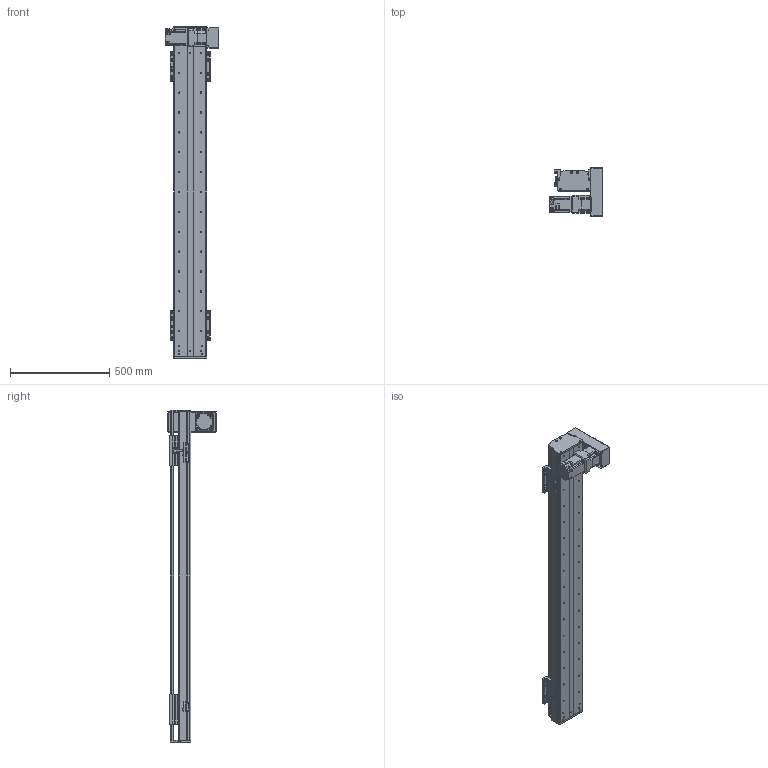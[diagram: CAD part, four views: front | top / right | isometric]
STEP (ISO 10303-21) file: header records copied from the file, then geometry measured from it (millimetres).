
FILE_DESCRIPTION(/* description */ (''),/* implementation_level */ '2;1');
FILE_NAME(/* name */ 'C:\Users\PC\Desktop\3D도면\STEP\새 폴더\DSB165-DR7G-W1300-L.stp',/* time_stamp */ '2018-06-25T15:59:21+09:00',/* author */ ('PC'),/* organization */ (''),/* preprocessor_version */ 'ST-DEVELOPER v16.5',/* originating_system */ 'Autodesk Inventor 2017',/* authorisation */ '');
FILE_SCHEMA (('AUTOMOTIVE_DESIGN { 1 0 10303 214 3 1 1 }'));
Length unit declared in the file: millimetre
Products named in the file (12): DSB165-DL7G-W1300-R_MIR; DSB165-BASE-L_MIR; hg-kr73__MIR; ab0901-p0401300102_MIR; 11-DSB165 BELT COVER_MIR; 12-DSB165-REAR COVER_MIR; 14-DSB165-FRONT COVER_MIR; DSB165-UP COVER_MIR; DSB165-TABLE(MSB20S)_MIR; DSR165-SENSOR DOG_MIR; SENSOR BRACKET(EE-SX674A)_MIR; pm-y65_step_MIR
Assembly tree (16 placements, depth 2):
  DSB165-DL7G-W1300-R_MIR
    DSB165-BASE-L_MIR
    hg-kr73__MIR
    ab0901-p0401300102_MIR
    11-DSB165 BELT COVER_MIR
    12-DSB165-REAR COVER_MIR
    14-DSB165-FRONT COVER_MIR
    DSB165-UP COVER_MIR
    DSB165-TABLE(MSB20S)_MIR  x2
    DSR165-SENSOR DOG_MIR
    pm-y65_step_MIR  x3
    SENSOR BRACKET(EE-SX674A)_MIR  x3
Bounding box: 270 x 242 x 1670 mm (x, y, z)
Volume: 10239437.9 mm3; surface area: 2378681 mm2
Topology: 17 solids, 17 shells, 1677 faces, 4504 edges, 2966 vertices
Faces by surface type: plane 921, cylinder 624, cone 120, sphere 8, torus 4
Full cylindrical faces by diameter (mm): 2.459 x20, 3.5 x6, 4.134 x42, 4.5 x18, 5 x27, 5.5 x36, 5.9 x4, 6 x4, 6.6 x14, 6.647 x48, 6.8 x1, 7 x4, 7.6 x4, 8.4 x1, 8.5 x24, 8.7 x1, 9.5 x32, 11 x6, 14 x16, 19 x1, 22 x1, 24 x1, 25 x1, 28 x1, 67 x1, 70 x2, 80 x1
Entity records: 36340 total; most frequent: DIRECTION 6298, CARTESIAN_POINT 6099, ORIENTED_EDGE 5554, EDGE_CURVE 2777, AXIS2_PLACEMENT_3D 2319, VERTEX_POINT 1982, EDGE_LOOP 1751, LINE 1660
